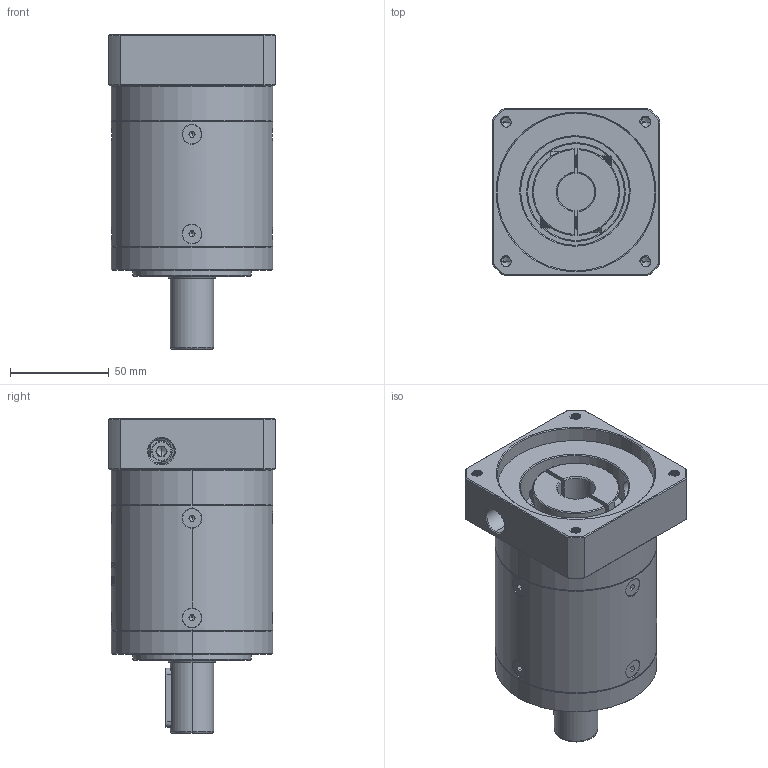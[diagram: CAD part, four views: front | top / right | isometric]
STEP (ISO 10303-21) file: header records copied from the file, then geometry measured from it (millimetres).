
FILE_DESCRIPTION (( 'STEP AP214' ), '1' );
FILE_NAME ('ZE80-D22-L2-19-80-100-M6.step', '2022-05-08T05:54:56', ( '' ), ( 'Microsoft' ), 'SwSTEP 2.0', 'SolidWorks 2016', '' );
FILE_SCHEMA (( 'AUTOMOTIVE_DESIGN' ));
Length unit declared in the file: millimetre
Products named in the file (1): ZE80-D22-L2-19-80-100-M6
Bounding box: 85 x 85 x 159.5 mm (x, y, z)
Volume: 614266 mm3; surface area: 90656.3 mm2
Topology: 13 solids, 13 shells, 2064 faces, 5373 edges, 3398 vertices
Faces by surface type: plane 891, cylinder 500, bspline 332, cone 324, torus 17
Entity records: 118409 total; most frequent: CARTESIAN_POINT 49474, ORIENTED_EDGE 10670, DIRECTION 8194, EDGE_CURVE 5335, VERTEX_POINT 3398, VECTOR 2858, LINE 2858, AXIS2_PLACEMENT_3D 2668
